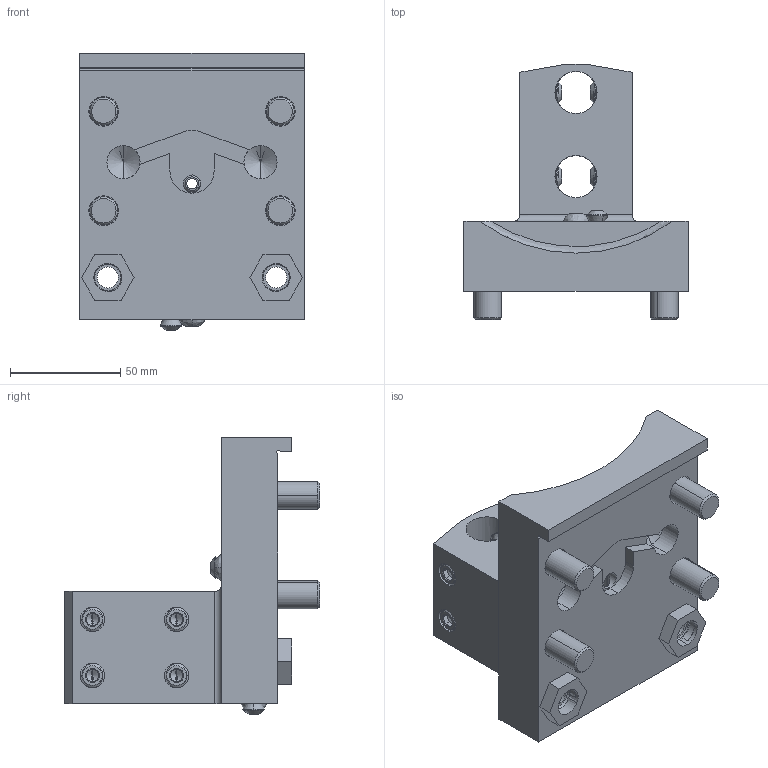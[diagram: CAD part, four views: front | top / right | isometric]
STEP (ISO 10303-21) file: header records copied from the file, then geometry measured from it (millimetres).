
FILE_DESCRIPTION (( 'STEP AP203' ), '1' );
FILE_NAME ('04-0754, BOT20ID-.75T.STEP', '2022-07-18T22:13:32', ( '' ), ( '' ), 'SwSTEP 2.0', 'SolidWorks 2021', '' );
FILE_SCHEMA (( 'CONFIG_CONTROL_DESIGN' ));
Length unit declared in the file: inch
Products named in the file (11): 20-0665; 57-0026; 49-0041; 40-16575; 22-8749; 04-0754, BOT20ID-.75T; 10000015507; 40-1609_40-0158; 40-1654; 20-3137; 44-0019_44-0019
Assembly tree (24 placements, depth 3):
  04-0754, BOT20ID-.75T
    10000015507
      20-0665
      57-0026  x2
      20-3137  x2
      22-8749  x2
      40-1609_40-0158  x2
      44-0019_44-0019  x8
      40-1654  x2
      40-16575  x2
      49-0041  x2
Bounding box: 101.6 x 115.57 x 125.76 mm (x, y, z)
Volume: 414553.3 mm3; surface area: 92575.7 mm2
Topology: 23 solids, 23 shells, 1150 faces, 2511 edges, 1397 vertices
Faces by surface type: cone 459, cylinder 440, plane 234, bspline 17
Entity records: 13478 total; most frequent: CARTESIAN_POINT 4710, DIRECTION 1532, ORIENTED_EDGE 1466, EDGE_CURVE 733, AXIS2_PLACEMENT_3D 585, VERTEX_POINT 449, LINE 362, EDGE_LOOP 362
